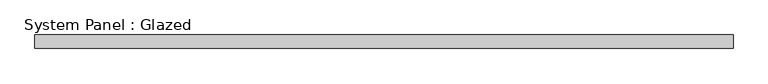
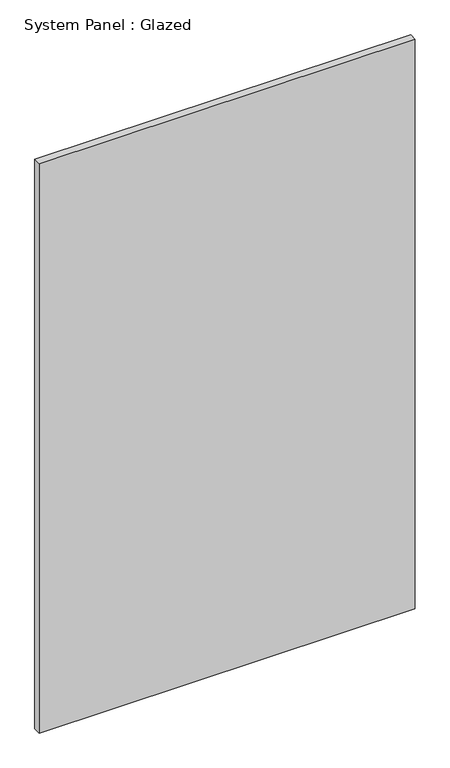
"""IFC4 building model written with IfcOpenShell, lengths in millimetres: plate geometry, System Panel : Glazed."""

import ifcopenshell
import ifcopenshell.guid

model = None  # the IFC model being written
_history = None  # IfcOwnerHistory: only IFC2X3 demands one
_inside = {}  # id of a spatial element -> (the spatial element, [elements in it])
_under = {}  # id of a project, library or spatial element -> (it, [spatial elements below it])
_declared = {}  # id of a project -> (the project, [libraries it declares])
_typed = {}  # id of a type object -> (the type object, [elements of that type])
_made_of = {}  # id of a material, layer set ... -> (it, [elements and type objects made of it])


def new_model(schema):
    """Start an empty IFC model of exactly this schema.

    Asked for "IFC4X3", IfcOpenShell would pick the latest addendum, in which some entities
    have other attributes; the version numbers below select the first issue.
    IFC2X3 requires an IfcOwnerHistory on every rooted entity: one is made here for all.
    """
    global model, _history
    if schema == "IFC4X3":
        model = ifcopenshell.file(schema_version=(4, 3, 0, 0))
    else:
        model = ifcopenshell.file(schema=schema)
    _inside.clear()
    _under.clear()
    _declared.clear()
    _typed.clear()
    _made_of.clear()
    _history = None
    if model.schema == "IFC2X3":
        org = make("IfcOrganization", Name="unknown")
        user = make(
            "IfcPersonAndOrganization",
            ThePerson=make("IfcPerson", FamilyName="unknown"),
            TheOrganization=org,
        )
        app = make(
            "IfcApplication",
            ApplicationDeveloper=org,
            Version="unknown",
            ApplicationFullName="unknown",
            ApplicationIdentifier="unknown",
        )
        _history = make(
            "IfcOwnerHistory",
            OwningUser=user,
            OwningApplication=app,
            ChangeAction="ADDED",
            CreationDate=0,
        )
    return model


def make(cls, **values):
    """One entity of the class cls with the attributes given. An attribute that is None is left unset."""
    return model.create_entity(
        cls, **{name: value for name, value in values.items() if value is not None}
    )


def rooted(cls, **values):
    """An entity with a GlobalId (a new one), such as an element, a storey or a relation."""
    return make(cls, GlobalId=ifcopenshell.guid.new(), OwnerHistory=_history, **values)


def si_unit(unit_type, name, prefix=None):
    """IfcSIUnit, for example si_unit("LENGTHUNIT", "METRE", prefix="MILLI")."""
    return make("IfcSIUnit", UnitType=unit_type, Prefix=prefix, Name=name)


def assignment(units):
    """IfcUnitAssignment: the units of a project."""
    return None if units is None else make("IfcUnitAssignment", Units=units)


def point(xyz):
    """IfcCartesianPoint."""
    return None if xyz is None else make("IfcCartesianPoint", Coordinates=xyz)


def direction(xyz):
    """IfcDirection."""
    return None if xyz is None else make("IfcDirection", DirectionRatios=xyz)


def frame(location, z_axis=None, x_axis=None):
    """IfcAxis2Placement3D, a coordinate frame: its origin and axes. An axis left out is left unset."""
    return make(
        "IfcAxis2Placement3D",
        Location=point(location),
        Axis=direction(z_axis),
        RefDirection=direction(x_axis),
    )


def origin():
    """The frame at (0, 0, 0) with its axes left unset."""
    return frame((0.0, 0.0, 0.0))


def origin_with_axes():
    """The frame at (0, 0, 0) with the z axis (0, 0, 1) and the x axis (1, 0, 0) written out."""
    return frame((0.0, 0.0, 0.0), z_axis=(0.0, 0.0, 1.0), x_axis=(1.0, 0.0, 0.0))


def place(relative_to, where):
    """IfcLocalPlacement: puts the frame where relative to a parent placement (None: the world)."""
    return make(
        "IfcLocalPlacement", PlacementRelTo=relative_to, RelativePlacement=where
    )


def context(
    kind, dimensions, precision=None, world=None, true_north=None, identifier=None
):
    """IfcGeometricRepresentationContext, for example the 3D "Model" context."""
    return make(
        "IfcGeometricRepresentationContext",
        ContextIdentifier=identifier,
        ContextType=kind,
        CoordinateSpaceDimension=dimensions,
        Precision=precision,
        WorldCoordinateSystem=world,
        TrueNorth=true_north,
    )


def project(units=None, contexts=None):
    """IfcProject with its units and contexts."""
    return rooted(
        "IfcProject",
        Name="project",
        RepresentationContexts=contexts,
        UnitsInContext=assignment(units),
    )


def spatial(cls, under=None, at=None, **own):
    """A site, building, storey or space (cls), placed at a placement, below another one or the project."""
    s = rooted(cls, ObjectPlacement=at, **own)
    if under is not None:
        _under.setdefault(under.id(), (under, []))[1].append(s)
    return s


def polyline(points):
    """IfcPolyline through the points."""
    return make("IfcPolyline", Points=[point(p) for p in points])


def outline(outer, holes=None, kind="AREA"):
    """IfcArbitraryClosedProfileDef: a profile drawn as a closed curve; with holes, ...WithVoids."""
    if holes is None:
        return make("IfcArbitraryClosedProfileDef", ProfileType=kind, OuterCurve=outer)
    return make(
        "IfcArbitraryProfileDefWithVoids",
        ProfileType=kind,
        OuterCurve=outer,
        InnerCurves=holes,
    )


def extrude(swept, where, along, depth):
    """IfcExtrudedAreaSolid: the profile swept, set in the frame where, extruded along a direction by depth."""
    return make(
        "IfcExtrudedAreaSolid",
        SweptArea=swept,
        Position=where,
        ExtrudedDirection=direction(along),
        Depth=depth,
    )


def shape(context_of_items, identifier, shape_type, items):
    """IfcShapeRepresentation: the items that make up one representation, for example the "Body"."""
    return make(
        "IfcShapeRepresentation",
        ContextOfItems=context_of_items,
        RepresentationIdentifier=identifier,
        RepresentationType=shape_type,
        Items=items,
    )


def source(mapping_origin, context_of_items, identifier, shape_type, items):
    """IfcRepresentationMap: a shape defined once, which mapped items show again and again."""
    return make(
        "IfcRepresentationMap",
        MappingOrigin=mapping_origin,
        MappedRepresentation=shape(context_of_items, identifier, shape_type, items),
    )


def transform(
    local_origin,
    x_axis=None,
    y_axis=None,
    z_axis=None,
    scale=None,
    scale2=None,
    scale3=None,
    uniform=True,
):
    """IfcCartesianTransformationOperator3D, or its non-uniform kind. x_axis, y_axis, z_axis: its Axis1, 2, 3."""
    if uniform:
        return make(
            "IfcCartesianTransformationOperator3D",
            Axis1=direction(x_axis),
            Axis2=direction(y_axis),
            LocalOrigin=point(local_origin),
            Scale=scale,
            Axis3=direction(z_axis),
        )
    return make(
        "IfcCartesianTransformationOperator3DnonUniform",
        Axis1=direction(x_axis),
        Axis2=direction(y_axis),
        LocalOrigin=point(local_origin),
        Scale=scale,
        Axis3=direction(z_axis),
        Scale2=scale2,
        Scale3=scale3,
    )


def mapped(mapping_source, mapping_target):
    """IfcMappedItem: shows the shape of a source again, moved by a transform."""
    return make(
        "IfcMappedItem", MappingSource=mapping_source, MappingTarget=mapping_target
    )


def made_of(thing, what):
    """Note that an element or type object is made of a material, layer set ...; save() writes the relation."""
    if what is not None:
        _made_of.setdefault(what.id(), (what, []))[1].append(thing)
    return thing


def element(
    cls,
    number,
    at=None,
    inside=None,
    cuts=None,
    type_object=None,
    material=None,
    context=None,
    identifier="Body",
    shape_type=None,
    held_by="IfcProductDefinitionShape",
    body=None,
    shapes=None,
    **own,
):
    """One element of the class cls, such as IfcWall. Its Tag is "e" and its number.

    at: its placement. inside: the storey or other place that contains it. cuts: it is an
    opening in that element (IfcRelVoidsElement). A single representation is given by context,
    identifier, shape_type and body (its items); several are given by shapes. held_by: the class
    of the entity that holds the representations. save() writes the other relations.
    """
    e = rooted(cls, Tag="e%d" % number, ObjectPlacement=at, **own)
    if body is not None:
        shapes = [shape(context, identifier, shape_type, body)]
    if shapes is not None:
        e.Representation = make(held_by, Representations=shapes)
    if inside is not None:
        _inside.setdefault(inside.id(), (inside, []))[1].append(e)
    if cuts is not None:
        rooted(
            "IfcRelVoidsElement", RelatingBuildingElement=cuts, RelatedOpeningElement=e
        )
    if type_object is not None:
        _typed.setdefault(type_object.id(), (type_object, []))[1].append(e)
    return made_of(e, material)


def aggregate(whole, parts):
    """IfcRelAggregates: a whole, such as a stair, and the parts it consists of."""
    return rooted("IfcRelAggregates", RelatingObject=whole, RelatedObjects=parts)


def save(model, path):
    """Write the relations noted so far, then the file.

    IfcRelAggregates (storeys below a building ...), IfcRelContainedInSpatialStructure (elements
    in a storey), IfcRelDefinesByType, IfcRelAssociatesMaterial and IfcRelDeclares: one each for
    every whole, place, type object, material and project.
    """
    for whole, parts in _under.values():
        aggregate(whole, parts)
    for where, things in _inside.values():
        rooted(
            "IfcRelContainedInSpatialStructure",
            RelatedElements=things,
            RelatingStructure=where,
        )
    for kind, things in _typed.values():
        rooted("IfcRelDefinesByType", RelatedObjects=things, RelatingType=kind)
    for what, things in _made_of.values():
        rooted("IfcRelAssociatesMaterial", RelatedObjects=things, RelatingMaterial=what)
    for by, libraries in _declared.values():
        rooted("IfcRelDeclares", RelatingContext=by, RelatedDefinitions=libraries)
    model.write(path)


def system_panel_glazed_48c6fd0a(model_context):
    return source(origin(), model_context, "Body", "SweptSolid", [
        extrude(outline(polyline([(643.17875, 24.5), (-643.17875, 24.5), (-643.17875, 49.5), (643.17875, 49.5), (643.17875, 24.5)])), origin_with_axes(), (0.0, 0.0, 1.0), 2058.6),
    ])


if __name__ == "__main__":
    model = new_model("IFC4")
    model_context = context("Model", 3, world=origin())
    ifc_project = project(units=[si_unit("LENGTHUNIT", "METRE", prefix="MILLI")], contexts=[model_context])
    site = spatial("IfcSite", under=ifc_project)
    building = spatial("IfcBuilding", under=site)
    placement = place(None, origin())
    system_panel_glazed_shape = system_panel_glazed_48c6fd0a(model_context)
    element("IfcPlate", 1, ObjectType="System Panel : Glazed", at=placement, inside=building, context=model_context, shape_type="MappedRepresentation", body=[
        mapped(system_panel_glazed_shape, transform((0.0, 0.0, 0.0), x_axis=(1.0, 0.0, 0.0), y_axis=(0.0, 1.0, 0.0), z_axis=(0.0, 0.0, 1.0))),
    ])
    save(model, "model.ifc")
